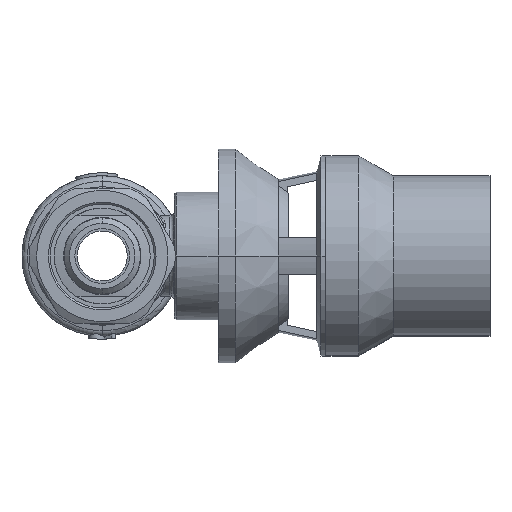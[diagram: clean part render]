
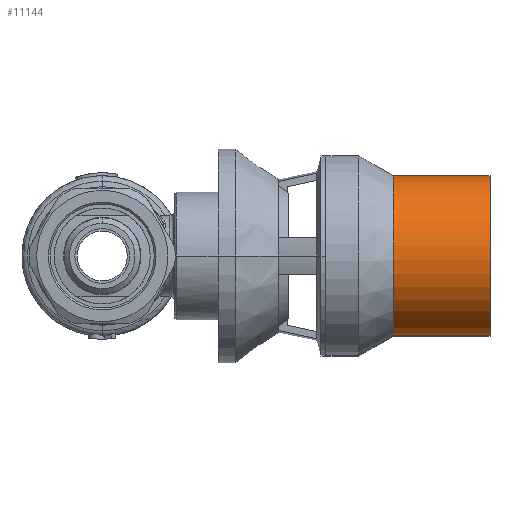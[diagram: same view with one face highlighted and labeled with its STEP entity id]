
A CAD part, left-side view. The second image highlights one B-rep face of the part: STEP entity #11144.
In plain terms, the highlighted cylindrical face has radius 22 mm (diameter 44 mm), a partial arc.
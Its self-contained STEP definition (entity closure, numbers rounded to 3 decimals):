
#1078 = AXIS2_PLACEMENT_3D ( 'NONE', #17541, #6432, #19409 ) ;
#2422 = AXIS2_PLACEMENT_3D ( 'NONE', #2452, #20894, #4289 ) ;
#2452 = CARTESIAN_POINT ( 'NONE',  ( 0., 53.218, 0. ) ) ;
#4289 = DIRECTION ( 'NONE',  ( 0., 0., 1. ) ) ;
#4620 = EDGE_CURVE ( 'NONE', #9144, #7958, #5255, .T. ) ;
#5255 = LINE ( 'NONE', #19469, #14534 ) ;
#5571 = CYLINDRICAL_SURFACE ( 'NONE', #2422, 22. ) ;
#6432 = DIRECTION ( 'NONE',  ( 0., 1., 0. ) ) ;
#6507 = DIRECTION ( 'NONE',  ( 0., 1., 0. ) ) ;
#6760 = ORIENTED_EDGE ( 'NONE', *, *, #13319, .F. ) ;
#6831 = ORIENTED_EDGE ( 'NONE', *, *, #18398, .T. ) ;
#7244 = VERTEX_POINT ( 'NONE', #11426 ) ;
#7943 = AXIS2_PLACEMENT_3D ( 'NONE', #17613, #6507, #19483 ) ;
#7958 = VERTEX_POINT ( 'NONE', #11567 ) ;
#8037 = ORIENTED_EDGE ( 'NONE', *, *, #4620, .T. ) ;
#9144 = VERTEX_POINT ( 'NONE', #17543 ) ;
#10626 = ORIENTED_EDGE ( 'NONE', *, *, #21985, .F. ) ;
#10689 = VECTOR ( 'NONE', #21230, 1000. ) ;
#11144 = ADVANCED_FACE ( 'NONE', ( #20308 ), #5571, .T. ) ;
#11426 = CARTESIAN_POINT ( 'NONE',  ( 0., 0., -22. ) ) ;
#11567 = CARTESIAN_POINT ( 'NONE',  ( 0., 26.474, 22. ) ) ;
#13319 = EDGE_CURVE ( 'NONE', #7244, #19420, #20478, .T. ) ;
#14534 = VECTOR ( 'NONE', #19443, 1000. ) ;
#17378 = CIRCLE ( 'NONE', #1078, 22. ) ;
#17541 = CARTESIAN_POINT ( 'NONE',  ( 0., 0., 0. ) ) ;
#17543 = CARTESIAN_POINT ( 'NONE',  ( 0., 0., 22. ) ) ;
#17613 = CARTESIAN_POINT ( 'NONE',  ( 0., 26.474, 0. ) ) ;
#18398 = EDGE_CURVE ( 'NONE', #7244, #9144, #17378, .T. ) ;
#19409 = DIRECTION ( 'NONE',  ( 0., 0., 1. ) ) ;
#19420 = VERTEX_POINT ( 'NONE', #22277 ) ;
#19443 = DIRECTION ( 'NONE',  ( 0., 1., 0. ) ) ;
#19469 = CARTESIAN_POINT ( 'NONE',  ( 0., 53.218, 22. ) ) ;
#19483 = DIRECTION ( 'NONE',  ( 0., 0., 1. ) ) ;
#20308 = FACE_OUTER_BOUND ( 'NONE', #23318, .T. ) ;
#20478 = LINE ( 'NONE', #20861, #10689 ) ;
#20861 = CARTESIAN_POINT ( 'NONE',  ( 0., 53.218, -22. ) ) ;
#20894 = DIRECTION ( 'NONE',  ( 0., 1., 0. ) ) ;
#21230 = DIRECTION ( 'NONE',  ( 0., 1., 0. ) ) ;
#21985 = EDGE_CURVE ( 'NONE', #19420, #7958, #22263, .T. ) ;
#22263 = CIRCLE ( 'NONE', #7943, 22. ) ;
#22277 = CARTESIAN_POINT ( 'NONE',  ( 0., 26.474, -22. ) ) ;
#23318 = EDGE_LOOP ( 'NONE', ( #6760, #6831, #8037, #10626 ) ) ;
